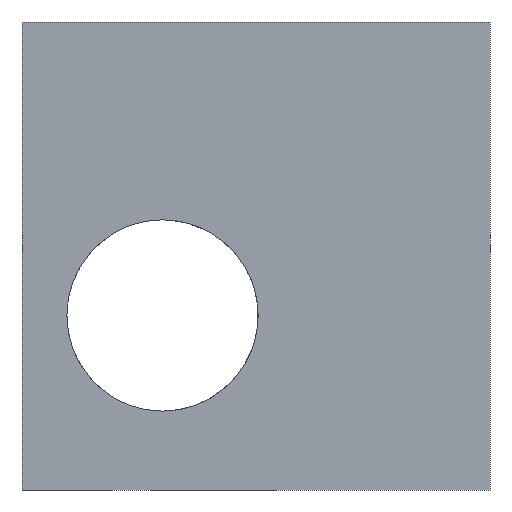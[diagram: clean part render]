
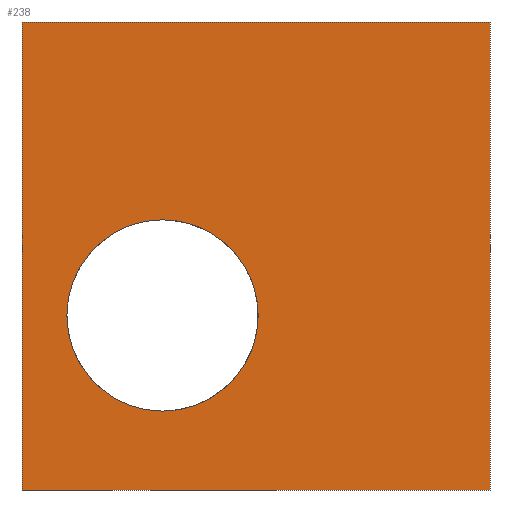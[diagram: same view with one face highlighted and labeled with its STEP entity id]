
A CAD part, front view. The second image highlights one B-rep face of the part: STEP entity #238.
In plain terms, the highlighted planar face has unit normal (0, -1, 0).
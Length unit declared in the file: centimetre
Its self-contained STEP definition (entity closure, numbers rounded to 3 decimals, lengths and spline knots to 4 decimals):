
#10 = EDGE_CURVE ( 'NONE', #471, #39, #817, .T. ) ;
#36 = DIRECTION ( 'NONE',  ( 0., 0., 1. ) ) ;
#39 = VERTEX_POINT ( 'NONE', #551 ) ;
#43 = DIRECTION ( 'NONE',  ( 1., 0., 0. ) ) ;
#48 = EDGE_CURVE ( 'NONE', #339, #330, #542, .T. ) ;
#56 = AXIS2_PLACEMENT_3D ( 'NONE', #845, #438, #499 ) ;
#78 = DIRECTION ( 'NONE',  ( 0., 0., -1. ) ) ;
#94 = ORIENTED_EDGE ( 'NONE', *, *, #48, .F. ) ;
#101 = FACE_OUTER_BOUND ( 'NONE', #860, .T. ) ;
#108 = CARTESIAN_POINT ( 'NONE',  ( 300.3246, 0., 372.9602 ) ) ;
#166 = CARTESIAN_POINT ( 'NONE',  ( 0., 0., 1000. ) ) ;
#172 = DIRECTION ( 'NONE',  ( 1., 0., 0. ) ) ;
#179 = FACE_BOUND ( 'NONE', #273, .T. ) ;
#192 = AXIS2_PLACEMENT_3D ( 'NONE', #108, #793, #36 ) ;
#201 = CARTESIAN_POINT ( 'NONE',  ( 300.3246, 0., 168.5872 ) ) ;
#210 = DIRECTION ( 'NONE',  ( 0., 1., 0. ) ) ;
#230 = CARTESIAN_POINT ( 'NONE',  ( 0., 0., 1000. ) ) ;
#238 = ADVANCED_FACE ( 'NONE', ( #179, #101 ), #442, .F. ) ;
#259 = EDGE_CURVE ( 'NONE', #39, #330, #650, .T. ) ;
#273 = EDGE_LOOP ( 'NONE', ( #713, #353 ) ) ;
#295 = CARTESIAN_POINT ( 'NONE',  ( 1000., 0., 1000. ) ) ;
#329 = VECTOR ( 'NONE', #172, 100. ) ;
#330 = VERTEX_POINT ( 'NONE', #591 ) ;
#338 = CARTESIAN_POINT ( 'NONE',  ( 300.3246, 0., 372.9602 ) ) ;
#339 = VERTEX_POINT ( 'NONE', #724 ) ;
#352 = EDGE_CURVE ( 'NONE', #518, #365, #747, .T. ) ;
#353 = ORIENTED_EDGE ( 'NONE', *, *, #752, .T. ) ;
#365 = VERTEX_POINT ( 'NONE', #201 ) ;
#382 = CARTESIAN_POINT ( 'NONE',  ( 0., 0., 0. ) ) ;
#399 = ORIENTED_EDGE ( 'NONE', *, *, #10, .T. ) ;
#415 = EDGE_CURVE ( 'NONE', #471, #339, #826, .T. ) ;
#422 = VECTOR ( 'NONE', #762, 100. ) ;
#438 = DIRECTION ( 'NONE',  ( 0., 1., 0. ) ) ;
#442 = PLANE ( 'NONE',  #56 ) ;
#445 = AXIS2_PLACEMENT_3D ( 'NONE', #338, #210, #601 ) ;
#471 = VERTEX_POINT ( 'NONE', #230 ) ;
#499 = DIRECTION ( 'NONE',  ( 0., 0., 1. ) ) ;
#518 = VERTEX_POINT ( 'NONE', #727 ) ;
#542 = LINE ( 'NONE', #295, #422 ) ;
#551 = CARTESIAN_POINT ( 'NONE',  ( 0., 0., 0. ) ) ;
#566 = ORIENTED_EDGE ( 'NONE', *, *, #259, .T. ) ;
#591 = CARTESIAN_POINT ( 'NONE',  ( 1000., 0., 0. ) ) ;
#601 = DIRECTION ( 'NONE',  ( 0., 0., 1. ) ) ;
#607 = CIRCLE ( 'NONE', #192, 204.373 ) ;
#650 = LINE ( 'NONE', #382, #811 ) ;
#713 = ORIENTED_EDGE ( 'NONE', *, *, #352, .T. ) ;
#724 = CARTESIAN_POINT ( 'NONE',  ( 1000., 0., 1000. ) ) ;
#727 = CARTESIAN_POINT ( 'NONE',  ( 300.3246, 0., 577.3332 ) ) ;
#747 = CIRCLE ( 'NONE', #445, 204.373 ) ;
#752 = EDGE_CURVE ( 'NONE', #365, #518, #607, .T. ) ;
#762 = DIRECTION ( 'NONE',  ( 0., 0., -1. ) ) ;
#793 = DIRECTION ( 'NONE',  ( 0., 1., 0. ) ) ;
#797 = VECTOR ( 'NONE', #78, 100. ) ;
#811 = VECTOR ( 'NONE', #43, 100. ) ;
#815 = CARTESIAN_POINT ( 'NONE',  ( 0., 0., 1000. ) ) ;
#817 = LINE ( 'NONE', #815, #797 ) ;
#826 = LINE ( 'NONE', #166, #329 ) ;
#845 = CARTESIAN_POINT ( 'NONE',  ( 0., 0., 1000. ) ) ;
#846 = ORIENTED_EDGE ( 'NONE', *, *, #415, .F. ) ;
#860 = EDGE_LOOP ( 'NONE', ( #566, #94, #846, #399 ) ) ;
